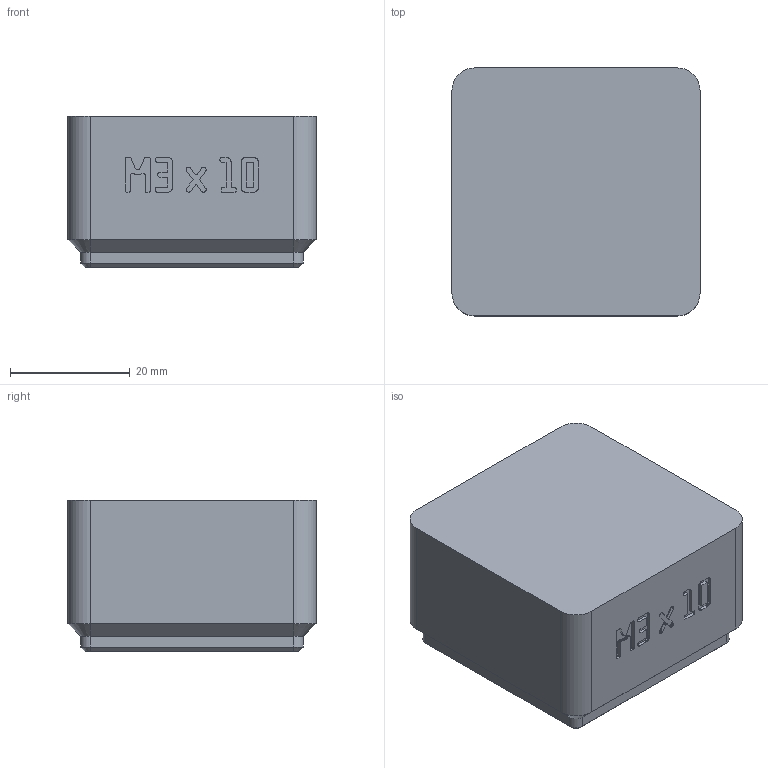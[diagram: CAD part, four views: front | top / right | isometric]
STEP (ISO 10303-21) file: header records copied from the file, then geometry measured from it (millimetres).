
FILE_DESCRIPTION(('Open CASCADE Model'),'2;1');
FILE_NAME('Open CASCADE Shape Model','2026-11-03T16:23:09',('Author'),( 'Open CASCADE'),'Open CASCADE STEP processor 8.0','build123d', 'Unknown');
FILE_SCHEMA(('AUTOMOTIVE_DESIGN { 1 0 10303 214 1 1 1 1 }'));
Products named in the file (1): COMPOUND
Bounding box: 41.5 x 41.5 x 25.4 mm (x, y, z)
Volume: 14681 mm3; surface area: 13533.7 mm2
Topology: 1 solids, 2 shells, 1067 faces, 3110 edges, 2060 vertices
Faces by surface type: plane 1031, cylinder 16, cone 12, bspline 8
Entity records: 74890 total; most frequent: CARTESIAN_POINT 12722, DIRECTION 11350, LINE 9126, VECTOR 9126, ORIENTED_EDGE 6220, PCURVE 6220, DEFINITIONAL_REPRESENTATION 6220, EDGE_CURVE 3110
